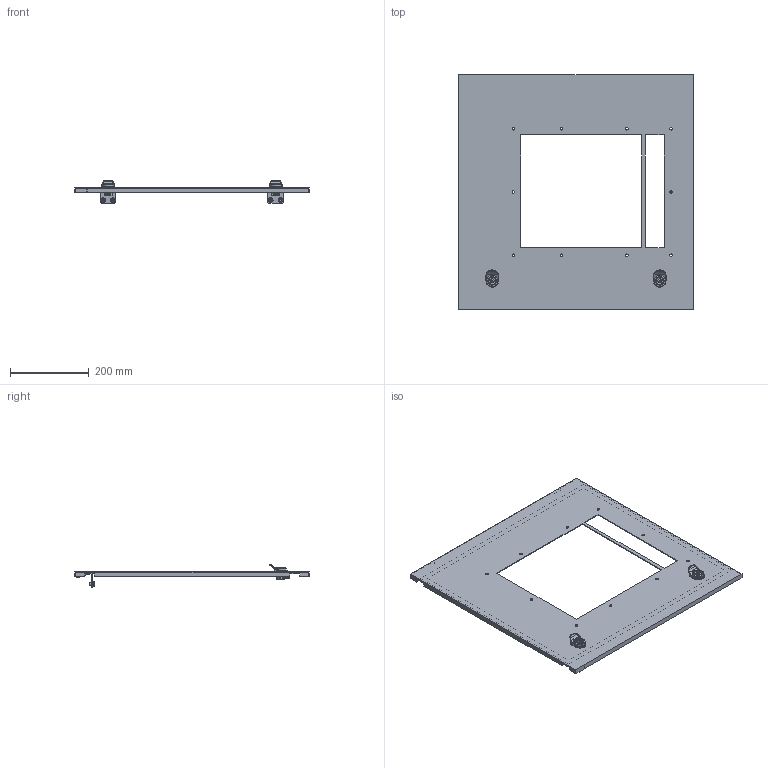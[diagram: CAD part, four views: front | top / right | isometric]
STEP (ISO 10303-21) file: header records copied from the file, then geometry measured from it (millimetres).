
FILE_DESCRIPTION (( 'STEP AP214' ), '1' );
FILE_NAME ('FO-00-ESDD-060-060 Äâåðü ñåêöèîííàÿ âíåøíÿÿ ñ âûðåçîì äëÿ ARMAT ACB òèïîðàçìåð D âûê. èñï. 3P 600õ600 ìì.STEP', '2025-08-20T06:46:59', ( '' ), ( '' ), 'SwSTEP 2.0', 'SolidWorks 2023', '' );
FILE_SCHEMA (( 'AUTOMOTIVE_DESIGN' ));
Length unit declared in the file: millimetre
Products named in the file (4): Дверь секционная внешняя с вырезом для ARMAT ACB D 600х600 мм.STEP; FO-00-ESDD-060-060 Дверь секционная внешняя с вырезом для ARMAT ACB типоразмер D вык. исп. 3P 600х600 мм; Петля_14.STEP; FO-00-ESDD-060-060 Дверь секционная внешняя с вырезом для ARMAT ACB типоразмер D вык. исп. 3P 600х600 мм.STEP
Assembly tree (4 placements, depth 3):
  FO-00-ESDD-060-060 Дверь секционная внешняя с вырезом для ARMAT ACB типоразмер D вык. исп. 3P 600х600 мм
    FO-00-ESDD-060-060 Дверь секционная внешняя с вырезом для ARMAT ACB типоразмер D вык. исп. 3P 600х600 мм.STEP
      Дверь секционная внешняя с вырезом для ARMAT ACB D 600х600 мм.STEP
      Петля_14.STEP  x2
Bounding box: 596 x 595 x 57.25 mm (x, y, z)
Volume: 684230.9 mm3; surface area: 604338.9 mm2
Topology: 3 solids, 9 shells, 656 faces, 1708 edges, 1108 vertices
Faces by surface type: plane 328, cylinder 252, bspline 30, torus 26, cone 20
Entity records: 19457 total; most frequent: CARTESIAN_POINT 5574, ORIENTED_EDGE 2914, DIRECTION 2819, EDGE_CURVE 1457, VERTEX_POINT 946, AXIS2_PLACEMENT_3D 945, VECTOR 929, LINE 929
